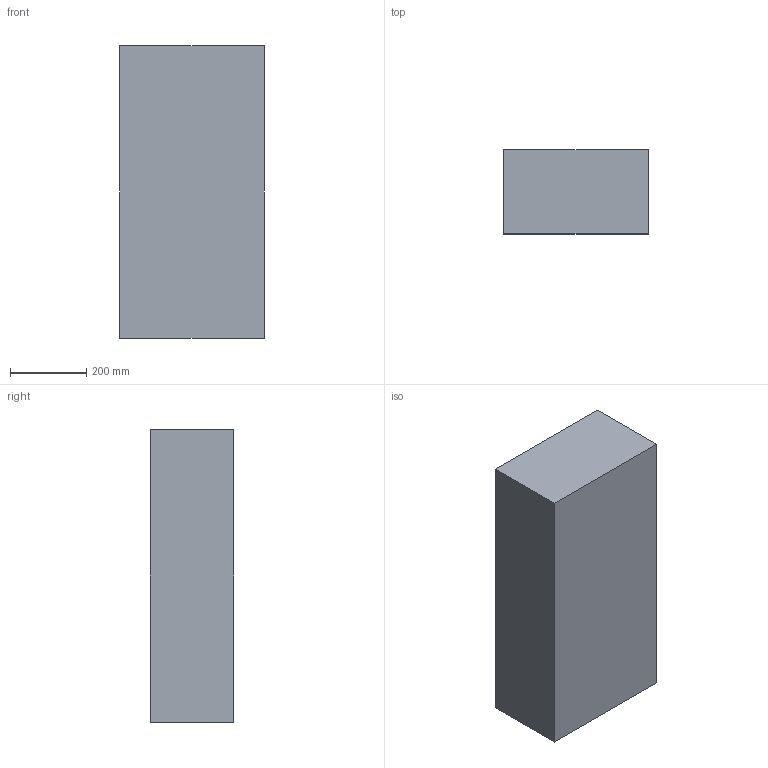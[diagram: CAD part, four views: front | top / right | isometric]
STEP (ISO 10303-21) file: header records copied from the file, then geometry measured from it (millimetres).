
FILE_DESCRIPTION(('Open CASCADE Model'),'2;1');
FILE_NAME('Open CASCADE Shape Model','2026-10-19T10:09:20',('Author'),( 'Open CASCADE'),'Open CASCADE STEP processor 8.0','Open CASCADE 8.0' ,'Unknown');
FILE_SCHEMA(('AUTOMOTIVE_DESIGN { 1 0 10303 214 1 1 1 1 }'));
Length unit declared in the file: millimetre
Products named in the file (1): SACO_25_50kg_REF 93
Bounding box: 380 x 220 x 766.5 mm (x, y, z)
Volume: 64079400 mm3; surface area: 1087000 mm2
Topology: 1 solids, 1 shells, 6 faces, 12 edges, 8 vertices
Faces by surface type: plane 6
Entity records: 322 total; most frequent: CARTESIAN_POINT 51, DIRECTION 50, LINE 36, VECTOR 36, ORIENTED_EDGE 24, PCURVE 24, DEFINITIONAL_REPRESENTATION 24, EDGE_CURVE 12
